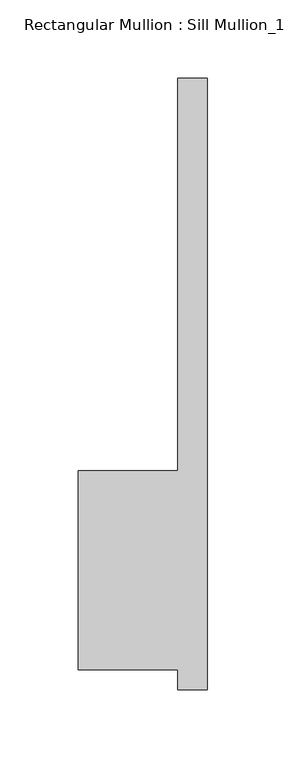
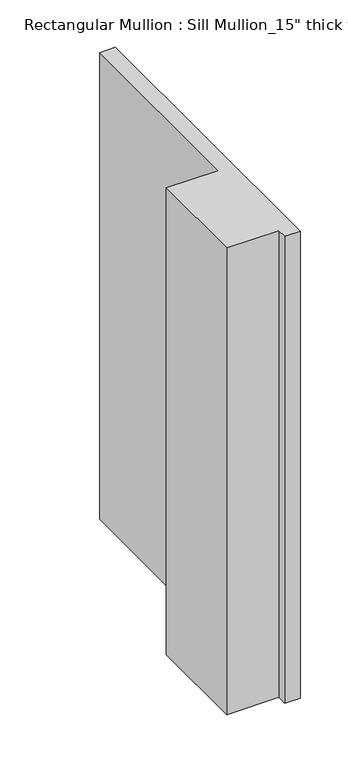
"""IFC4 building model written with IfcOpenShell, lengths in millimetres: member geometry."""

from ifc_helpers import new_model, si_unit, frame, origin, place, context, project, spatial, polyline, outline, extrude, source, transform, mapped, element, save


def member_fd482800(model_context):
    return source(origin(), model_context, "Body", "SweptSolid", [
        extrude(outline(polyline([(-82.55, 50.8), (-19.05, 50.8), (-19.05, 301.625), (0.0, 301.625), (0.0, -88.9), (-19.05, -88.9), (-19.05, -76.2), (-82.55, -76.2), (-82.55, 50.8)])), frame((0.0, 0.0, -601.1333333), z_axis=(0.0, 0.0, 1.0), x_axis=(1.0, 0.0, 0.0)), (0.0, 0.0, 1.0), 601.1333333),
    ])


if __name__ == "__main__":
    model = new_model("IFC4")
    model_context = context("Model", 3, world=origin())
    ifc_project = project(units=[si_unit("LENGTHUNIT", "METRE", prefix="MILLI")], contexts=[model_context])
    site = spatial("IfcSite", under=ifc_project)
    building = spatial("IfcBuilding", under=site)
    placement = place(None, origin())
    member_shape = member_fd482800(model_context)
    element("IfcMember", 1, ObjectType="Rectangular Mullion : Sill Mullion_15\" thick wall", at=placement, inside=building, context=model_context, shape_type="MappedRepresentation", body=[
        mapped(member_shape, transform((0.0, 0.0, 0.0), x_axis=(1.0, 0.0, 0.0), y_axis=(0.0, 1.0, 0.0), z_axis=(0.0, 0.0, 1.0))),
    ])
    save(model, "model.ifc")
